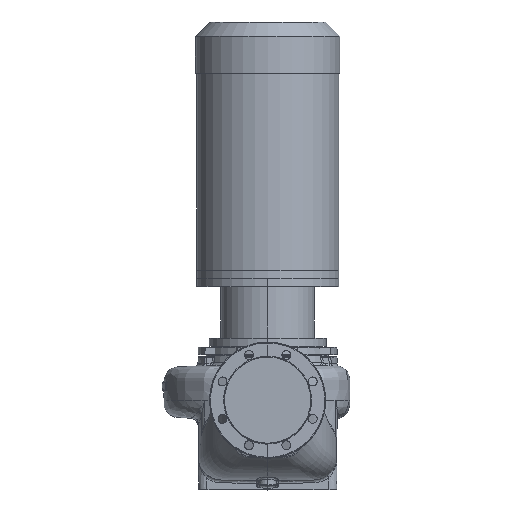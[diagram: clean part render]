
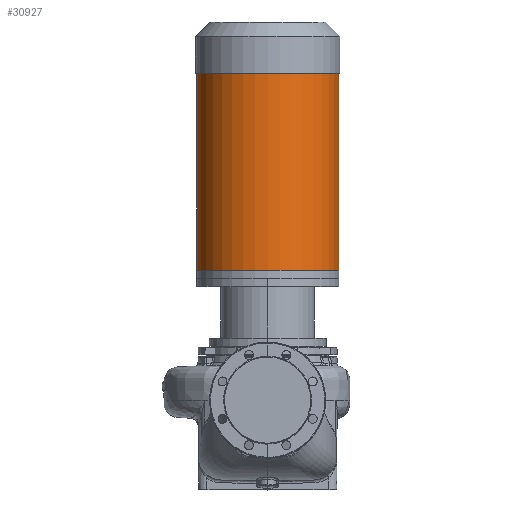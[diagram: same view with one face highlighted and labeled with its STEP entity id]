
A CAD part, top view. The second image highlights one B-rep face of the part: STEP entity #30927.
In plain terms, the highlighted cylindrical face has radius 174.5 mm (diameter 349 mm), a partial arc.
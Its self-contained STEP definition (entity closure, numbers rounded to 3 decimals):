
#662 = CARTESIAN_POINT ( 'NONE',  ( 174.5, 299.8, 0. ) ) ;
#1048 = DIRECTION ( 'NONE',  ( -1., 0., 0. ) ) ;
#1757 = VERTEX_POINT ( 'NONE', #71290 ) ;
#2424 = CIRCLE ( 'NONE', #11760, 174.5 ) ;
#2487 = CARTESIAN_POINT ( 'NONE',  ( 0., 803.8, 0. ) ) ;
#7388 = LINE ( 'NONE', #39718, #65491 ) ;
#8266 = CARTESIAN_POINT ( 'NONE',  ( -174.5, 803.8, 0. ) ) ;
#9511 = EDGE_CURVE ( 'NONE', #69464, #23373, #57096, .T. ) ;
#9701 = ORIENTED_EDGE ( 'NONE', *, *, #60037, .T. ) ;
#10780 = CIRCLE ( 'NONE', #60891, 174.5 ) ;
#11622 = FACE_OUTER_BOUND ( 'NONE', #27934, .T. ) ;
#11760 = AXIS2_PLACEMENT_3D ( 'NONE', #2487, #53445, #25584 ) ;
#17084 = ORIENTED_EDGE ( 'NONE', *, *, #30526, .F. ) ;
#17106 = CARTESIAN_POINT ( 'NONE',  ( 0., 319.8, 0. ) ) ;
#20323 = ORIENTED_EDGE ( 'NONE', *, *, #55576, .T. ) ;
#22624 = DIRECTION ( 'NONE',  ( 0., -1., 0. ) ) ;
#23373 = VERTEX_POINT ( 'NONE', #26323 ) ;
#25584 = DIRECTION ( 'NONE',  ( -1., 0., 0. ) ) ;
#26323 = CARTESIAN_POINT ( 'NONE',  ( 174.5, 319.8, 0. ) ) ;
#26565 = CYLINDRICAL_SURFACE ( 'NONE', #59929, 174.5 ) ;
#27507 = VERTEX_POINT ( 'NONE', #8266 ) ;
#27548 = CARTESIAN_POINT ( 'NONE',  ( 174.5, 803.8, 0. ) ) ;
#27934 = EDGE_LOOP ( 'NONE', ( #66030, #9701, #20323, #17084 ) ) ;
#30526 = EDGE_CURVE ( 'NONE', #23373, #1757, #10780, .T. ) ;
#30927 = ADVANCED_FACE ( 'NONE', ( #11622 ), #26565, .T. ) ;
#34339 = DIRECTION ( 'NONE',  ( 0., -1., 0. ) ) ;
#39307 = DIRECTION ( 'NONE',  ( -1., 0., 0. ) ) ;
#39718 = CARTESIAN_POINT ( 'NONE',  ( -174.5, 299.8, 0. ) ) ;
#40181 = DIRECTION ( 'NONE',  ( 0., -1., 0. ) ) ;
#53445 = DIRECTION ( 'NONE',  ( 0., -1., 0. ) ) ;
#55370 = VECTOR ( 'NONE', #34339, 1000. ) ;
#55576 = EDGE_CURVE ( 'NONE', #27507, #1757, #7388, .T. ) ;
#57096 = LINE ( 'NONE', #662, #55370 ) ;
#59929 = AXIS2_PLACEMENT_3D ( 'NONE', #67949, #40181, #1048 ) ;
#60037 = EDGE_CURVE ( 'NONE', #69464, #27507, #2424, .T. ) ;
#60891 = AXIS2_PLACEMENT_3D ( 'NONE', #17106, #72988, #39307 ) ;
#65491 = VECTOR ( 'NONE', #22624, 1000. ) ;
#66030 = ORIENTED_EDGE ( 'NONE', *, *, #9511, .F. ) ;
#67949 = CARTESIAN_POINT ( 'NONE',  ( 0., 299.8, 0. ) ) ;
#69464 = VERTEX_POINT ( 'NONE', #27548 ) ;
#71290 = CARTESIAN_POINT ( 'NONE',  ( -174.5, 319.8, 0. ) ) ;
#72988 = DIRECTION ( 'NONE',  ( 0., -1., 0. ) ) ;
